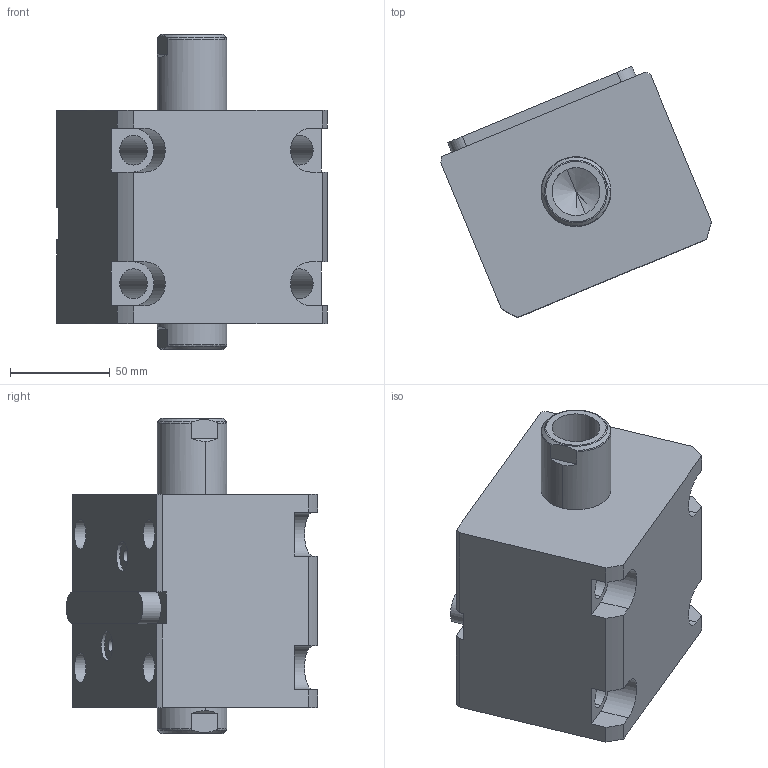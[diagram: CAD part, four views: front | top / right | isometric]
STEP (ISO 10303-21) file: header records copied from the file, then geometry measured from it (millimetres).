
FILE_DESCRIPTION (( 'STEP AP214' ), '1' );
FILE_NAME ('chtb-lwm63x25n_asm.STEP', '2018-05-22T02:13:40', ( 'Windows' ), ( 'Microsoft' ), 'SwSTEP 2.0', 'SolidWorks 2015', '' );
FILE_SCHEMA (( 'AUTOMOTIVE_DESIGN' ));
Length unit declared in the file: millimetre
Products named in the file (5): CHTB-SW63X25NHSG; CHTB-LWM63X25NBT; CHTB-LA63PJ; CHTB-63QG; chtb-lwm63x25n_asm
Assembly tree (4 placements, depth 2):
  chtb-lwm63x25n_asm
    CHTB-63QG
    CHTB-LA63PJ
    CHTB-LWM63X25NBT
    CHTB-SW63X25NHSG
Bounding box: 135.77 x 126.06 x 158 mm (x, y, z)
Volume: 984546.9 mm3; surface area: 150280.2 mm2
Topology: 4 solids, 4 shells, 186 faces, 543 edges, 367 vertices
Faces by surface type: cylinder 103, plane 47, bspline 12, cone 12, torus 12
Entity records: 18665 total; most frequent: CARTESIAN_POINT 13839, ORIENTED_EDGE 1070, DIRECTION 834, EDGE_CURVE 535, VERTEX_POINT 367, AXIS2_PLACEMENT_3D 318, EDGE_LOOP 212, VECTOR 198
